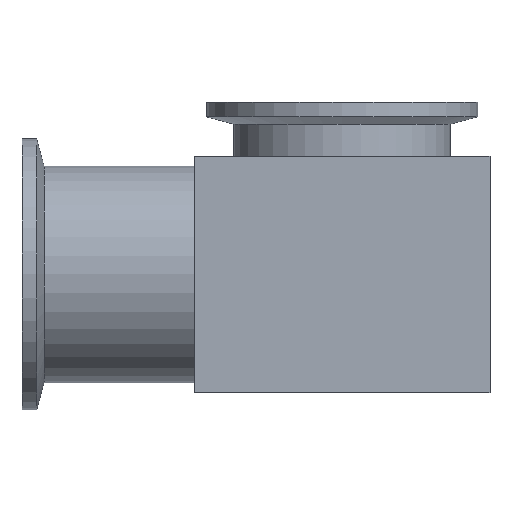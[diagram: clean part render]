
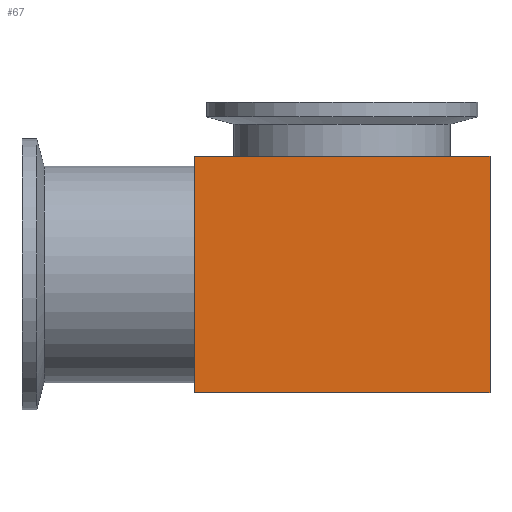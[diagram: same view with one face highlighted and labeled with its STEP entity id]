
A CAD part, front view. The second image highlights one B-rep face of the part: STEP entity #67.
In plain terms, the highlighted planar face has unit normal (0, -1, 0).
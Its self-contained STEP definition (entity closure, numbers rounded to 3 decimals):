
#67 = ADVANCED_FACE( '', ( #149 ), #150, .F. );
#149 = FACE_OUTER_BOUND( '', #242, .T. );
#150 = PLANE( '', #243 );
#242 = EDGE_LOOP( '', ( #365, #366, #367, #368 ) );
#243 = AXIS2_PLACEMENT_3D( '', #369, #370, #371 );
#365 = ORIENTED_EDGE( '', *, *, #490, .T. );
#366 = ORIENTED_EDGE( '', *, *, #491, .F. );
#367 = ORIENTED_EDGE( '', *, *, #485, .F. );
#368 = ORIENTED_EDGE( '', *, *, #492, .T. );
#369 = CARTESIAN_POINT( '', ( -30., -35., 24. ) );
#370 = DIRECTION( '', ( 0., 1., 0. ) );
#371 = DIRECTION( '', ( 0., 0., 1. ) );
#485 = EDGE_CURVE( '', #563, #565, #566, .T. );
#490 = EDGE_CURVE( '', #572, #573, #574, .T. );
#491 = EDGE_CURVE( '', #565, #573, #575, .T. );
#492 = EDGE_CURVE( '', #563, #572, #576, .T. );
#563 = VERTEX_POINT( '', #696 );
#565 = VERTEX_POINT( '', #699 );
#566 = LINE( '', #700, #701 );
#572 = VERTEX_POINT( '', #708 );
#573 = VERTEX_POINT( '', #709 );
#574 = LINE( '', #710, #711 );
#575 = LINE( '', #712, #713 );
#576 = LINE( '', #714, #715 );
#696 = CARTESIAN_POINT( '', ( -30., -35., 24. ) );
#699 = CARTESIAN_POINT( '', ( 30., -35., 24. ) );
#700 = CARTESIAN_POINT( '', ( -30., -35., 24. ) );
#701 = VECTOR( '', #791, 1000. );
#708 = CARTESIAN_POINT( '', ( -30., -35., -24. ) );
#709 = CARTESIAN_POINT( '', ( 30., -35., -24. ) );
#710 = CARTESIAN_POINT( '', ( -30., -35., -24. ) );
#711 = VECTOR( '', #796, 1000. );
#712 = CARTESIAN_POINT( '', ( 30., -35., 24. ) );
#713 = VECTOR( '', #797, 1000. );
#714 = CARTESIAN_POINT( '', ( -30., -35., 24. ) );
#715 = VECTOR( '', #798, 1000. );
#791 = DIRECTION( '', ( 1., 0., 0. ) );
#796 = DIRECTION( '', ( 1., 0., 0. ) );
#797 = DIRECTION( '', ( 0., 0., -1. ) );
#798 = DIRECTION( '', ( 0., 0., -1. ) );
